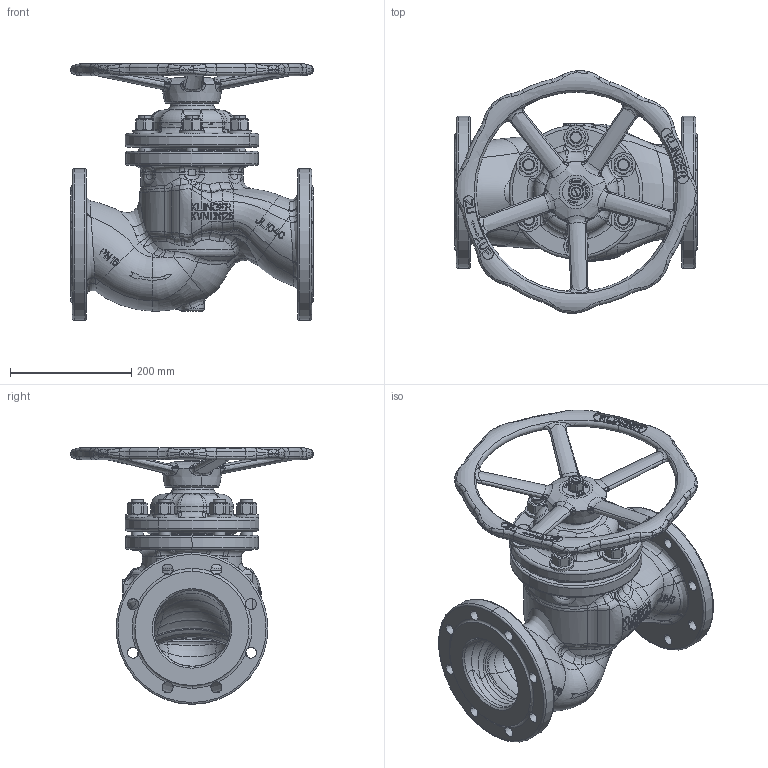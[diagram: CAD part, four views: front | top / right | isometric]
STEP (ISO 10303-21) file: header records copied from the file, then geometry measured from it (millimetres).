
FILE_DESCRIPTION((''),'2;1');
FILE_NAME('KVNFL125S-----P016DGG_SW0001','2015-07-08T',('jeitlers'),('RAND'),'PRO/ENGINEER BY PARAMETRIC TECHNOLOGY CORPORATION, 2013410','PRO/ENGINEER BY PARAMETRIC TECHNOLOGY CORPORATION, 2013410','');
FILE_SCHEMA(('CONFIG_CONTROL_DESIGN'));
Products named in the file (1): KVNFL125S-----P016DGG_SW0001
Bounding box: 400 x 399.66 x 422.5 mm (x, y, z)
Volume: 8587355.8 mm3; surface area: 1169839.4 mm2
Topology: 3 solids, 3 shells, 3448 faces, 9041 edges, 5673 vertices
Faces by surface type: plane 1688, bspline 963, cylinder 485, torus 182, cone 127, sphere 2, extrusion 1
Entity records: 366467 total; most frequent: CARTESIAN_POINT 291075, ORIENTED_EDGE 18078, DIRECTION 12113, EDGE_CURVE 9039, VERTEX_POINT 5673, AXIS2_PLACEMENT_3D 4214, VECTOR 3685, LINE 3684
